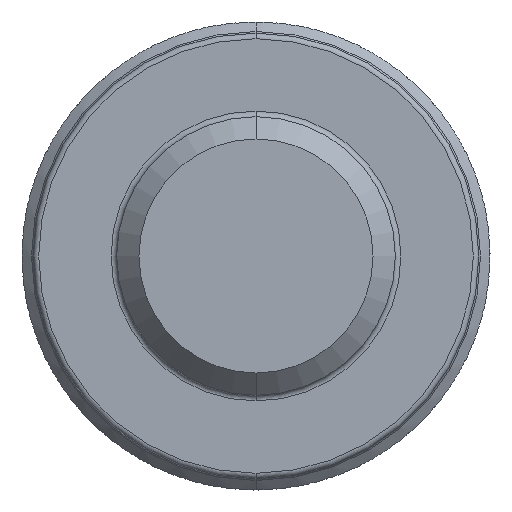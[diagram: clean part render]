
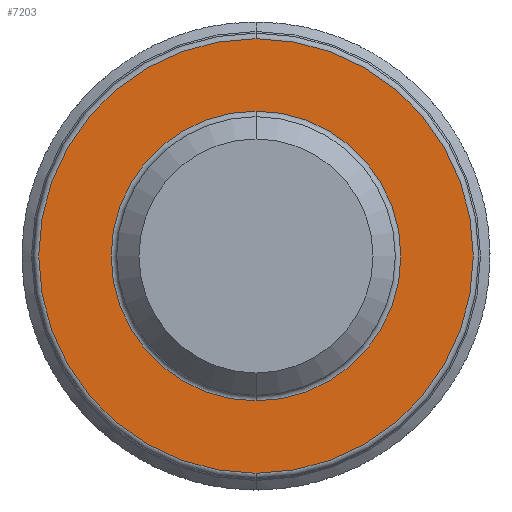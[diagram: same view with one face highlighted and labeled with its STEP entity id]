
A CAD part, front view. The second image highlights one B-rep face of the part: STEP entity #7203.
In plain terms, the highlighted planar face has unit normal (0, -1, 0).
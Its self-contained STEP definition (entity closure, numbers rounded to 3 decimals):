
#91 = ORIENTED_EDGE ( 'NONE', *, *, #6878, .T. ) ;
#457 = DIRECTION ( 'NONE',  ( 0., 0., -1. ) ) ;
#526 = CIRCLE ( 'NONE', #7009, 2.6 ) ;
#1127 = DIRECTION ( 'NONE',  ( 0., 0., -1. ) ) ;
#1419 = EDGE_CURVE ( 'NONE', #3805, #4321, #526, .T. ) ;
#1673 = DIRECTION ( 'NONE',  ( 0., -1., 0. ) ) ;
#1687 = EDGE_LOOP ( 'NONE', ( #4432, #6735 ) ) ;
#1758 = PLANE ( 'NONE',  #3332 ) ;
#2025 = CARTESIAN_POINT ( 'NONE',  ( 0., -5., 2.6 ) ) ;
#2306 = CARTESIAN_POINT ( 'NONE',  ( 0., -5., 0. ) ) ;
#2462 = DIRECTION ( 'NONE',  ( 0., 0., -1. ) ) ;
#2731 = ORIENTED_EDGE ( 'NONE', *, *, #8345, .T. ) ;
#2971 = CARTESIAN_POINT ( 'NONE',  ( 0., -5., 0. ) ) ;
#3009 = DIRECTION ( 'NONE',  ( 0., 1., 0. ) ) ;
#3173 = CIRCLE ( 'NONE', #4388, 2.6 ) ;
#3332 = AXIS2_PLACEMENT_3D ( 'NONE', #8156, #3688, #457 ) ;
#3380 = CIRCLE ( 'NONE', #5660, 3.9 ) ;
#3534 = CARTESIAN_POINT ( 'NONE',  ( 0., -5., 0. ) ) ;
#3569 = EDGE_CURVE ( 'NONE', #4321, #3805, #3173, .T. ) ;
#3668 = EDGE_LOOP ( 'NONE', ( #2731, #91 ) ) ;
#3688 = DIRECTION ( 'NONE',  ( 0., -1., 0. ) ) ;
#3805 = VERTEX_POINT ( 'NONE', #2025 ) ;
#4148 = CARTESIAN_POINT ( 'NONE',  ( 0., -5., 3.9 ) ) ;
#4166 = CARTESIAN_POINT ( 'NONE',  ( 0., -5., -2.6 ) ) ;
#4234 = DIRECTION ( 'NONE',  ( 0., 0., -1. ) ) ;
#4321 = VERTEX_POINT ( 'NONE', #4166 ) ;
#4340 = CARTESIAN_POINT ( 'NONE',  ( 0., -5., 0. ) ) ;
#4388 = AXIS2_PLACEMENT_3D ( 'NONE', #3534, #5436, #8008 ) ;
#4432 = ORIENTED_EDGE ( 'NONE', *, *, #3569, .T. ) ;
#4660 = AXIS2_PLACEMENT_3D ( 'NONE', #4340, #6910, #1127 ) ;
#5436 = DIRECTION ( 'NONE',  ( 0., 1., 0. ) ) ;
#5660 = AXIS2_PLACEMENT_3D ( 'NONE', #2306, #1673, #4234 ) ;
#6147 = VERTEX_POINT ( 'NONE', #4148 ) ;
#6212 = FACE_OUTER_BOUND ( 'NONE', #3668, .T. ) ;
#6282 = CARTESIAN_POINT ( 'NONE',  ( 0., -5., -3.9 ) ) ;
#6547 = VERTEX_POINT ( 'NONE', #6282 ) ;
#6556 = CIRCLE ( 'NONE', #4660, 3.9 ) ;
#6735 = ORIENTED_EDGE ( 'NONE', *, *, #1419, .T. ) ;
#6849 = FACE_BOUND ( 'NONE', #1687, .T. ) ;
#6878 = EDGE_CURVE ( 'NONE', #6147, #6547, #6556, .T. ) ;
#6910 = DIRECTION ( 'NONE',  ( 0., -1., 0. ) ) ;
#7009 = AXIS2_PLACEMENT_3D ( 'NONE', #2971, #3009, #2462 ) ;
#7203 = ADVANCED_FACE ( 'NONE', ( #6849, #6212 ), #1758, .T. ) ;
#8008 = DIRECTION ( 'NONE',  ( 0., 0., -1. ) ) ;
#8156 = CARTESIAN_POINT ( 'NONE',  ( 2.5, -5., 0. ) ) ;
#8345 = EDGE_CURVE ( 'NONE', #6547, #6147, #3380, .T. ) ;
